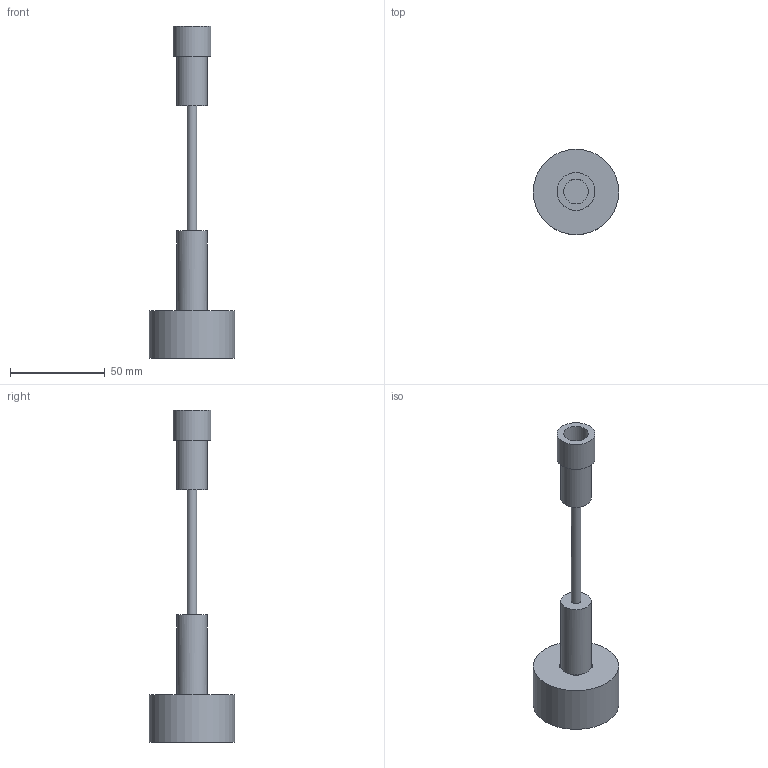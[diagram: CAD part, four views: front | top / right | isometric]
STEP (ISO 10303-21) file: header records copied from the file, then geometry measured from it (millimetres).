
FILE_DESCRIPTION(('Open CASCADE Model'),'2;1');
FILE_NAME('Open CASCADE Shape Model','2026-10-04T21:56:21',('Author'),( 'Open CASCADE'),'Open CASCADE STEP processor 7.9','Open CASCADE 7.9' ,'Unknown');
FILE_SCHEMA(('AUTOMOTIVE_DESIGN { 1 0 10303 214 1 1 1 1 }'));
Length unit declared in the file: millimetre
Products named in the file (1): Open CASCADE STEP translator 7.9 4
Bounding box: 45 x 45 x 175 mm (x, y, z)
Volume: 18352.8 mm3; surface area: 19222.5 mm2
Topology: 1 solids, 1 shells, 27 faces, 71 edges, 42 vertices
Faces by surface type: plane 14, cylinder 13
Full cylindrical faces by diameter (mm): 2.7 x4, 5 x1, 10 x1, 13 x2, 16 x2, 20 x1, 42 x1, 45 x1
Entity records: 1820 total; most frequent: DIRECTION 327, CARTESIAN_POINT 283, ORIENTED_EDGE 142, PCURVE 142, DEFINITIONAL_REPRESENTATION 142, CIRCLE 116, LINE 97, VECTOR 97
